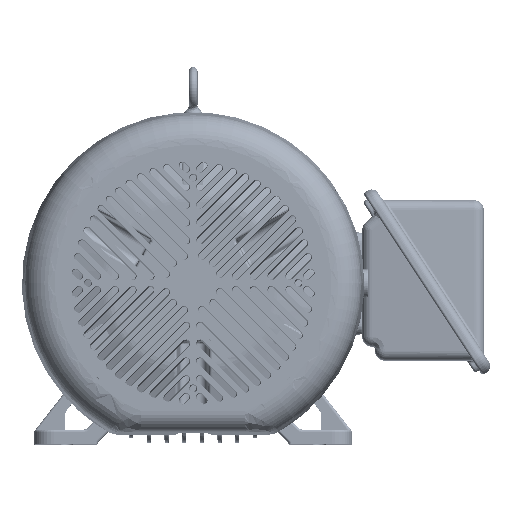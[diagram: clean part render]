
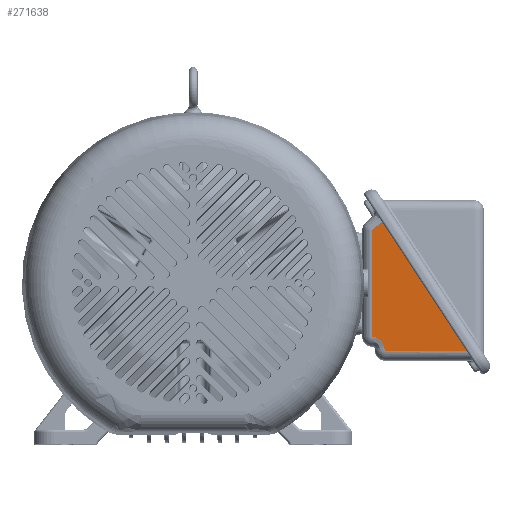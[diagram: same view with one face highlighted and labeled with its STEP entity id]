
A CAD part, top view. The second image highlights one B-rep face of the part: STEP entity #271638.
In plain terms, the highlighted planar face has unit normal (-0.044, -0.029, 0.999) as drawn and (0.044, -0.029, -0.999) by its records, which use the part's own axes.
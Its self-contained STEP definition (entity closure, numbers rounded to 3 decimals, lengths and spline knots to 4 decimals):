
#267705=DIRECTION('',(-0.548,-0.836,
0.));
#267706=VECTOR('',#267705,7.6433);
#267707=CARTESIAN_POINT('',(-0.3451,3.0636,
-3.6185));
#267708=LINE('',#267707,#267706);
#267749=CARTESIAN_POINT('',(-0.3451,3.0636,
-3.6185));
#267750=CARTESIAN_POINT('',(-0.3314,3.046,
-3.6174));
#267751=CARTESIAN_POINT('',(-0.3024,3.0126,
-3.6152));
#267752=CARTESIAN_POINT('',(-0.2701,2.9824,
-3.6129));
#267753=CARTESIAN_POINT('',(-0.2531,2.9681,
-3.6118));
#267769=DIRECTION('',(0.765,-0.642,0.052));
#267770=VECTOR('',#267769,0.5228);
#267771=CARTESIAN_POINT('',(-0.2531,2.9681,
-3.6118));
#267772=LINE('',#267771,#267770);
#267787=DIRECTION('',(0.,-1.,0.029));
#267788=VECTOR('',#267787,5.2809);
#267789=CARTESIAN_POINT('',(0.1469,2.6325,
-3.5846));
#267790=LINE('',#267789,#267788);
#267810=DIRECTION('',(-0.995,-0.087,
-0.041));
#267811=VECTOR('',#267810,0.0501);
#267812=CARTESIAN_POINT('',(0.1469,-2.6462,
-3.433));
#267813=LINE('',#267812,#267811);
#267818=CARTESIAN_POINT('',(0.097,-2.6505,
-3.435));
#267819=CARTESIAN_POINT('',(0.0723,-2.6527,
-3.436));
#267820=CARTESIAN_POINT('',(0.0187,-2.6602,
-3.4382));
#267821=CARTESIAN_POINT('',(-0.0774,-2.6881,
-3.4416));
#267822=CARTESIAN_POINT('',(-0.1781,-2.7373,
-3.4446));
#267823=CARTESIAN_POINT('',(-0.2744,-2.809,
-3.4468));
#267824=CARTESIAN_POINT('',(-0.3567,-2.8998,
-3.4478));
#267825=CARTESIAN_POINT('',(-0.4183,-3.0021,
-3.4475));
#267826=CARTESIAN_POINT('',(-0.4571,-3.1057,
-3.4462));
#267827=CARTESIAN_POINT('',(-0.4756,-3.2022,
-3.4443));
#267828=CARTESIAN_POINT('',(-0.4781,-3.2544,
-3.4429));
#267829=CARTESIAN_POINT('',(-0.4781,-3.2781,
-3.4422));
#267849=DIRECTION('',(0.,-1.,0.029));
#267850=VECTOR('',#267849,0.0512);
#267851=CARTESIAN_POINT('',(-0.4781,-3.2781,
-3.4422));
#267852=LINE('',#267851,#267850);
#270964=CARTESIAN_POINT('',(-4.5345,-3.3293,
-3.6185));
#271004=DIRECTION('',(-0.999,0.,-0.044));
#271005=VECTOR('',#271004,4.0602);
#271006=CARTESIAN_POINT('',(-0.4781,-3.3293,
-3.4407));
#271007=LINE('',#271006,#271005);
#271022=CARTESIAN_POINT('',(-0.4781,-3.2781,
-3.4422));
#271023=CARTESIAN_POINT('',(-0.4781,-3.3293,
-3.4407));
#271024=VERTEX_POINT('',#271022);
#271025=VERTEX_POINT('',#271023);
#271102=VERTEX_POINT('',#270964);
#271106=CARTESIAN_POINT('',(-0.3451,3.0636,
-3.6185));
#271107=VERTEX_POINT('',#271106);
#271496=CARTESIAN_POINT('',(-0.2531,2.9681,
-3.6118));
#271497=CARTESIAN_POINT('',(0.1469,2.6325,
-3.5846));
#271498=VERTEX_POINT('',#271496);
#271499=VERTEX_POINT('',#271497);
#271500=CARTESIAN_POINT('',(0.1469,-2.6462,
-3.433));
#271501=CARTESIAN_POINT('',(0.097,-2.6505,
-3.435));
#271502=VERTEX_POINT('',#271500);
#271503=VERTEX_POINT('',#271501);
#271615=CARTESIAN_POINT('',(-5.079,-3.9356,-3.625));
#271616=DIRECTION('',(-0.044,0.029,0.999));
#271617=DIRECTION('',(-0.548,-0.836,0.));
#271618=AXIS2_PLACEMENT_3D('',#271615,#271616,#271617);
#271619=PLANE('',#271618);
#271621=ORIENTED_EDGE('',*,*,#271620,.T.);
#271623=ORIENTED_EDGE('',*,*,#271622,.F.);
#271625=ORIENTED_EDGE('',*,*,#271624,.F.);
#271627=ORIENTED_EDGE('',*,*,#271626,.F.);
#271629=ORIENTED_EDGE('',*,*,#271628,.F.);
#271631=ORIENTED_EDGE('',*,*,#271630,.F.);
#271633=ORIENTED_EDGE('',*,*,#271632,.F.);
#271635=ORIENTED_EDGE('',*,*,#271634,.F.);
#271636=EDGE_LOOP('',(#271621,#271623,#271625,#271627,#271629,#271631,#271633,
#271635));
#271637=FACE_OUTER_BOUND('',#271636,.F.);
#271638=ADVANCED_FACE('',(#271637),#271619,.F.);
#267754=B_SPLINE_CURVE_WITH_KNOTS('',3,(#267749,#267750,#267751,#267752,
#267753),.UNSPECIFIED.,.F.,.F.,(4,1,4),(0.,0.5,1.),.UNSPECIFIED.);
#267830=B_SPLINE_CURVE_WITH_KNOTS('',3,(#267818,#267819,#267820,#267821,#267822,
#267823,#267824,#267825,#267826,#267827,#267828,#267829),.UNSPECIFIED.,.F.,.F.,(
4,1,1,1,1,1,1,1,1,4),(0.,0.1111,0.2222,
0.3333,0.4444,0.5556,0.6667,
0.7778,0.8889,1.),.UNSPECIFIED.);
#271620=EDGE_CURVE('',#271107,#271102,#267708,.T.);
#271622=EDGE_CURVE('',#271025,#271102,#271007,.T.);
#271624=EDGE_CURVE('',#271024,#271025,#267852,.T.);
#271626=EDGE_CURVE('',#271503,#271024,#267830,.T.);
#271628=EDGE_CURVE('',#271502,#271503,#267813,.T.);
#271630=EDGE_CURVE('',#271499,#271502,#267790,.T.);
#271632=EDGE_CURVE('',#271498,#271499,#267772,.T.);
#271634=EDGE_CURVE('',#271107,#271498,#267754,.T.);
